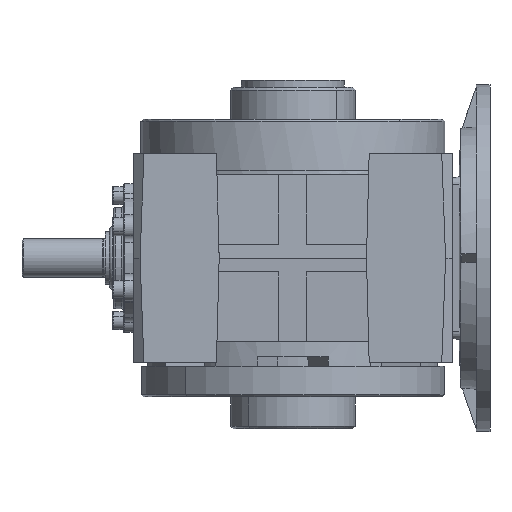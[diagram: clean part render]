
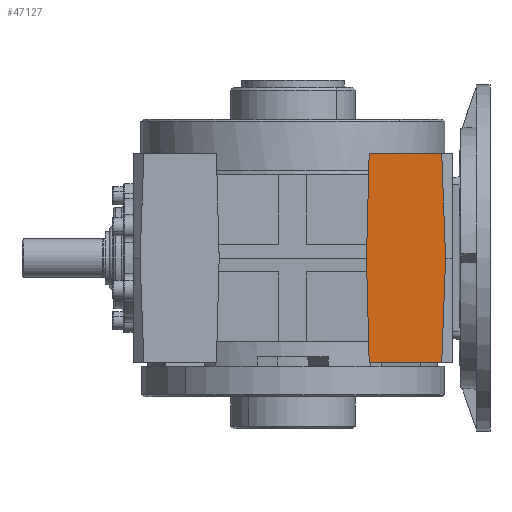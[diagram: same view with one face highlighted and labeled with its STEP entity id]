
A CAD part, front view. The second image highlights one B-rep face of the part: STEP entity #47127.
In plain terms, the highlighted planar face has unit normal (0, -1, 0).
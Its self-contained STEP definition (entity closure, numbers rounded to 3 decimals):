
#848 = CARTESIAN_POINT ( 'NONE',  ( 112.465, -165., -66.576 ) ) ;
#1626 = VERTEX_POINT ( 'NONE', #23012 ) ;
#2234 = FACE_OUTER_BOUND ( 'NONE', #30766, .T. ) ;
#3777 = ORIENTED_EDGE ( 'NONE', *, *, #45315, .T. ) ;
#3841 = CARTESIAN_POINT ( 'NONE',  ( 107.223, -165., 75. ) ) ;
#3851 = LINE ( 'NONE', #17720, #38978 ) ;
#4662 = CARTESIAN_POINT ( 'NONE',  ( 55., -165., -75. ) ) ;
#4849 = DIRECTION ( 'NONE',  ( 1., 0., 0. ) ) ;
#6289 = DIRECTION ( 'NONE',  ( 0., -1., 0. ) ) ;
#6431 = EDGE_CURVE ( 'NONE', #36309, #1626, #7171, .T. ) ;
#6544 = VERTEX_POINT ( 'NONE', #3841 ) ;
#7068 = LINE ( 'NONE', #13547, #21003 ) ;
#7171 = LINE ( 'NONE', #17469, #39833 ) ;
#8227 = EDGE_CURVE ( 'NONE', #41972, #12378, #7068, .T. ) ;
#10534 = DIRECTION ( 'NONE',  ( -0.026, 0., 1. ) ) ;
#12378 = VERTEX_POINT ( 'NONE', #22312 ) ;
#13547 = CARTESIAN_POINT ( 'NONE',  ( 106.918, -165., -83.218 ) ) ;
#14332 = ORIENTED_EDGE ( 'NONE', *, *, #36862, .F. ) ;
#17035 = DIRECTION ( 'NONE',  ( 0., 0., -1. ) ) ;
#17469 = CARTESIAN_POINT ( 'NONE',  ( 55., -165., 75. ) ) ;
#17720 = CARTESIAN_POINT ( 'NONE',  ( 55., -165., -75. ) ) ;
#18222 = EDGE_CURVE ( 'NONE', #1626, #6544, #36803, .T. ) ;
#18961 = VECTOR ( 'NONE', #29536, 1000. ) ;
#19832 = ORIENTED_EDGE ( 'NONE', *, *, #42963, .T. ) ;
#20024 = AXIS2_PLACEMENT_3D ( 'NONE', #24636, #6289, #17035 ) ;
#20803 = DIRECTION ( 'NONE',  ( 0.026, 0., 1. ) ) ;
#21003 = VECTOR ( 'NONE', #35010, 1000. ) ;
#21630 = CARTESIAN_POINT ( 'NONE',  ( 53.036, -165., 0. ) ) ;
#22312 = CARTESIAN_POINT ( 'NONE',  ( 107.223, -165., -75. ) ) ;
#23012 = CARTESIAN_POINT ( 'NONE',  ( 55., -165., 75. ) ) ;
#24636 = CARTESIAN_POINT ( 'NONE',  ( -115., -165., -75. ) ) ;
#24859 = PLANE ( 'NONE',  #20024 ) ;
#26064 = VECTOR ( 'NONE', #43591, 1000. ) ;
#28174 = VECTOR ( 'NONE', #4849, 1000. ) ;
#28260 = CARTESIAN_POINT ( 'NONE',  ( 110., -165., 0. ) ) ;
#28843 = CARTESIAN_POINT ( 'NONE',  ( 115., -165., -75. ) ) ;
#29536 = DIRECTION ( 'NONE',  ( 1., 0., 0. ) ) ;
#30091 = CARTESIAN_POINT ( 'NONE',  ( 115., -165., 75. ) ) ;
#30766 = EDGE_LOOP ( 'NONE', ( #43209, #3777, #40572, #45910, #14332, #19832 ) ) ;
#33544 = LINE ( 'NONE', #848, #26064 ) ;
#35010 = DIRECTION ( 'NONE',  ( -0.037, 0., -0.999 ) ) ;
#36309 = VERTEX_POINT ( 'NONE', #21630 ) ;
#36709 = LINE ( 'NONE', #28843, #18961 ) ;
#36803 = LINE ( 'NONE', #30091, #28174 ) ;
#36862 = EDGE_CURVE ( 'NONE', #39110, #36309, #3851, .T. ) ;
#38978 = VECTOR ( 'NONE', #10534, 1000. ) ;
#39110 = VERTEX_POINT ( 'NONE', #4662 ) ;
#39833 = VECTOR ( 'NONE', #20803, 1000. ) ;
#40572 = ORIENTED_EDGE ( 'NONE', *, *, #18222, .F. ) ;
#41972 = VERTEX_POINT ( 'NONE', #28260 ) ;
#42963 = EDGE_CURVE ( 'NONE', #39110, #12378, #36709, .T. ) ;
#43209 = ORIENTED_EDGE ( 'NONE', *, *, #8227, .F. ) ;
#43591 = DIRECTION ( 'NONE',  ( -0.037, 0., 0.999 ) ) ;
#45315 = EDGE_CURVE ( 'NONE', #41972, #6544, #33544, .T. ) ;
#45910 = ORIENTED_EDGE ( 'NONE', *, *, #6431, .F. ) ;
#47127 = ADVANCED_FACE ( 'NONE', ( #2234 ), #24859, .T. ) ;
